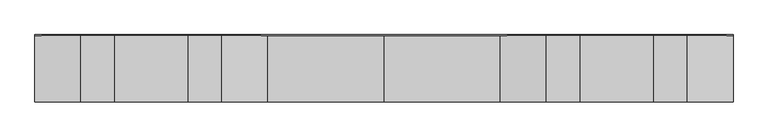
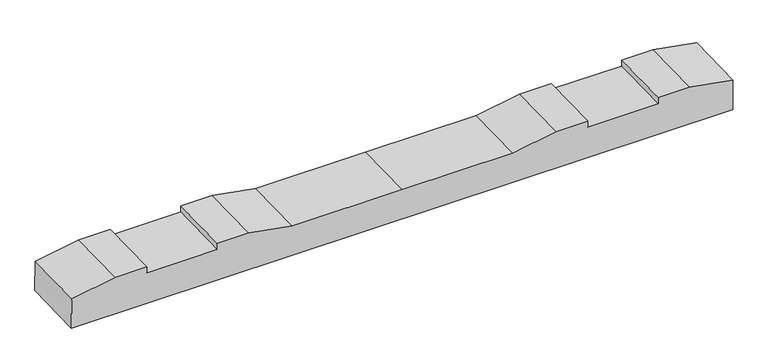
"""IFC4 building model written with IfcOpenShell, lengths in millimetres: proxy geometry, 轨枕-立面角度 : 轨枕-立面角度."""

from ifc_helpers import new_model, si_unit, frame, origin, place, context, project, spatial, polyline, outline, extrude, source, transform, mapped, element, save


def generic_models_d674cbcc(model_context):
    return source(origin(), model_context, "Body", "SweptSolid", [
        extrude(outline(polyline([(0.0, 0.0), (2099.7669328, 0.0), (2099.7669328, -100.020689), (1961.8834664, -124.5000001), (1861.8834664, -124.5000001), (1861.8834664, -104.5), (1637.8834664, -104.5), (1637.8834664, -124.5000001), (1537.8834664, -124.5000001), (1399.8834664, -100.0), (1049.8834664, -100.0), (699.8834664, -100.0), (561.8834664, -124.5000001), (461.8834664, -124.5000001), (461.8834664, -104.5), (237.8834664, -104.5), (237.8834664, -124.5000001), (137.8834664, -124.5000001), (0.0, -100.020689), (0.0, 0.0)])), frame((-1049.8834664, -97.410876, -106.9175909), z_axis=(0.0, 0.999700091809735, 0.024489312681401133), x_axis=(1.0, 0.0, 0.0)), (0.0, 0.0, 1.0), 200.0),
    ])


if __name__ == "__main__":
    model = new_model("IFC4")
    model_context = context("Model", 3, world=origin())
    ifc_project = project(units=[si_unit("LENGTHUNIT", "METRE", prefix="MILLI")], contexts=[model_context])
    site = spatial("IfcSite", under=ifc_project)
    building = spatial("IfcBuilding", under=site)
    placement = place(None, origin())
    generic_models_shape = generic_models_d674cbcc(model_context)
    element("IfcBuildingElementProxy", 1, Name="轨枕-立面角度 : 轨枕-立面角度", ObjectType="轨枕-立面角度 : 轨枕-立面角度", at=placement, inside=building, context=model_context, shape_type="MappedRepresentation", body=[
        mapped(generic_models_shape, transform((0.0, 0.0, 0.0), x_axis=(1.0, 0.0, 0.0), y_axis=(0.0, 1.0, 0.0), z_axis=(0.0, 0.0, 1.0))),
    ])
    save(model, "model.ifc")
